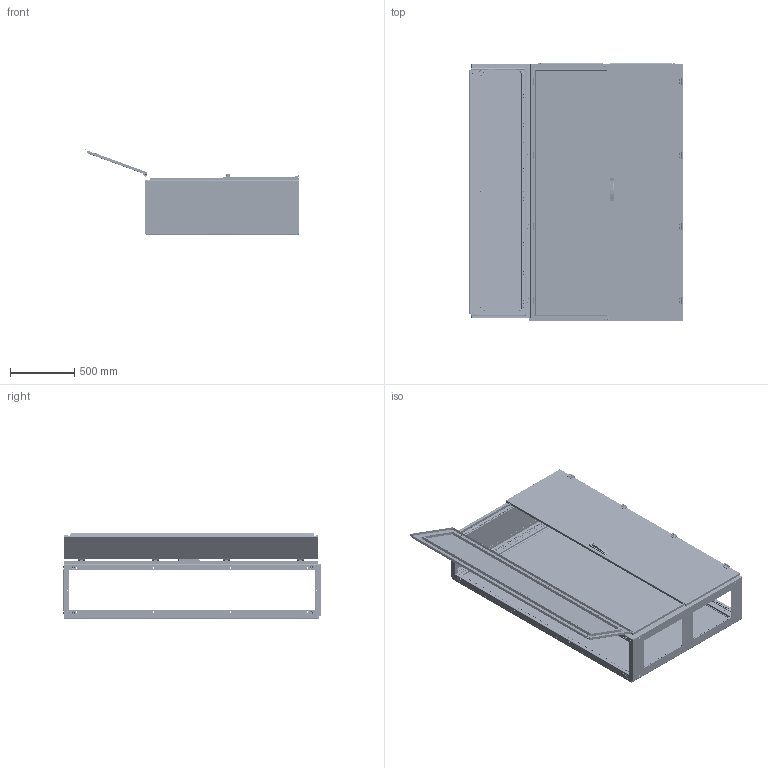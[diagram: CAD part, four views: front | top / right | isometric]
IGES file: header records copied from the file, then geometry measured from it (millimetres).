
Start section: SolidWorks IGES file using analytic representation for surfaces
Global section: file name: U:\14_RD\05_Technical_office\04_Office\Hrdinova\3D modely - IGES\Distri\QA201204.IGS; native system: SolidWorks 2011; preprocessor: SolidWorks 2011; author: adhrja3; date: 170613.103820; units: millimetre
Bounding box: 1668.78 x 2004.5 x 662.7 mm (x, y, z)
Surface area: 17678158.4 mm2 (no closed solid volume)
Topology: 0 solids, 0 shells, 9034 faces, 155100 edges, 154816 vertices
Faces by surface type: bspline 4756, revolution 4278
